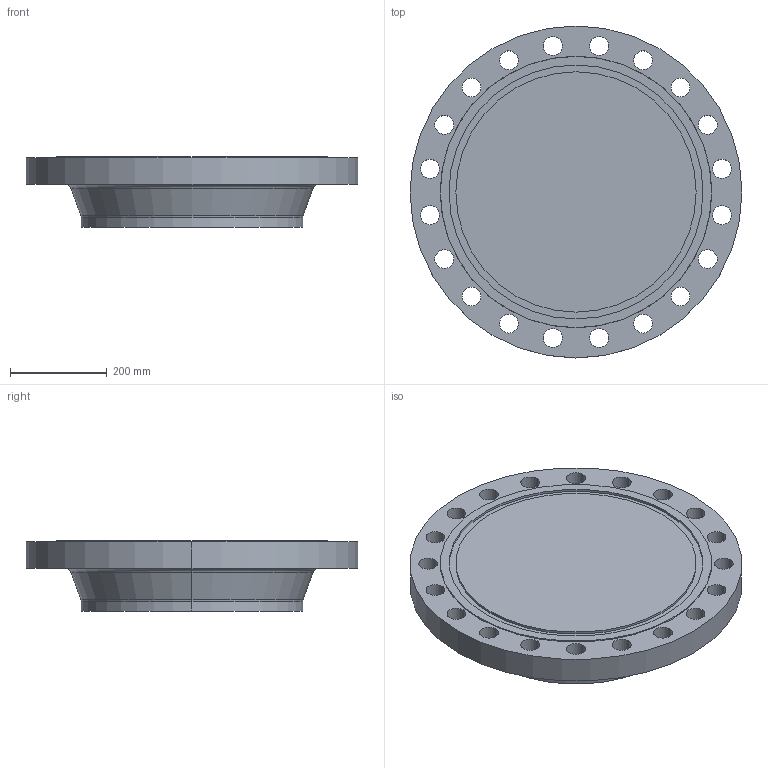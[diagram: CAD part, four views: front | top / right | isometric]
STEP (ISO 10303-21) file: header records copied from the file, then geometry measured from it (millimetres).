
FILE_DESCRIPTION (( 'STEP AP214' ), '1' );
FILE_NAME ('PN40 DN450 Type 21(ii) - Type D Face.STEP', '2018-12-29T04:50:50', ( '' ), ( '' ), 'SwSTEP 2.0', 'SolidWorks 2019', '' );
FILE_SCHEMA (( 'AUTOMOTIVE_DESIGN' ));
Length unit declared in the file: millimetre
Products named in the file (1): PN40 DN450 Type 21(ii) - Type D Face
Bounding box: 685 x 685 x 145 mm (x, y, z)
Volume: 34971869.7 mm3; surface area: 1059315.4 mm2
Topology: 1 solids, 1 shells, 62 faces, 162 edges, 106 vertices
Faces by surface type: cylinder 48, plane 6, torus 4, cone 4
Entity records: 2082 total; most frequent: DIRECTION 398, CARTESIAN_POINT 331, ORIENTED_EDGE 324, AXIS2_PLACEMENT_3D 173, EDGE_CURVE 162, CIRCLE 110, VERTEX_POINT 106, EDGE_LOOP 106
